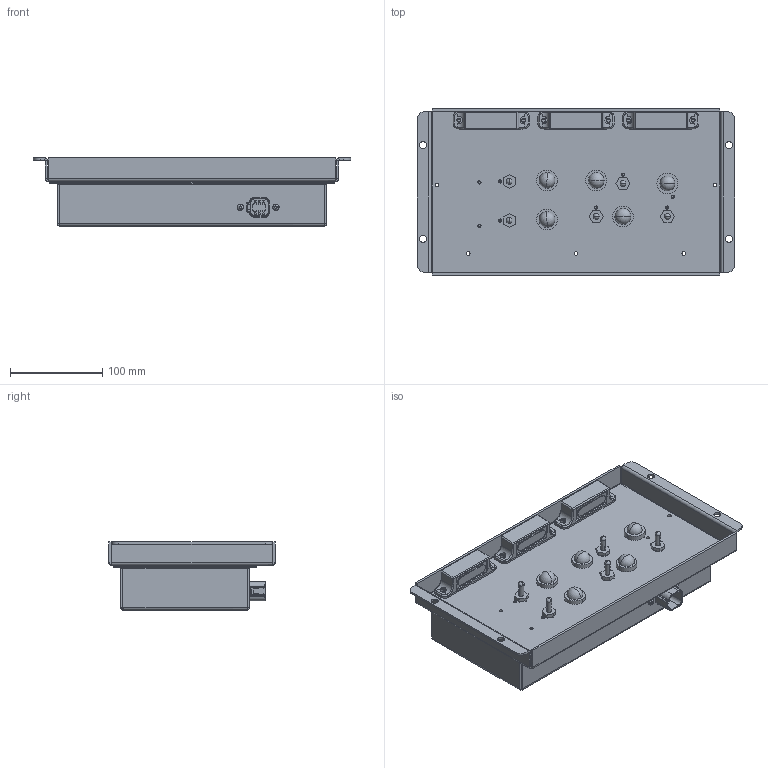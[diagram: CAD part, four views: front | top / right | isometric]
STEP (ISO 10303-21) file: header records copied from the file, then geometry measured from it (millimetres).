
FILE_DESCRIPTION (( 'STEP AP214' ), '1' );
FILE_NAME ('Assem7.STEP', '2019-04-02T17:20:41', ( '' ), ( '' ), 'SwSTEP 2.0', 'SolidWorks 2014', '' );
FILE_SCHEMA (( 'AUTOMOTIVE_DESIGN' ));
Length unit declared in the file: inch
Products named in the file (150): SW3dPS-1289; Alignment Ring; User_Library-RES_3216-1206_1; STEP-WE-PD-7345-Metal-rev1; SW3dPS-0805_SMD_Capacitor_1; Part15^Jack CNTRL BOX LFT (1); Part3^Assem7; Assem7; Part14^Jack CNTRL BOX LFT (1); 96001A264_18-8 SS TORX THREAD-FORMING SCREW FOR PLASTIC (1)_96001A264; solico nut; User_Library-DO-214AA_SMB_1; SW3DPS-SOT-23-DEFAULT; c-dt04-6p-cl09-99-3d; User_Library-Cap12_5x25; ABM7_(20MHZ); Part2^Assem7; SW3dPS-0603_SMD_Capacitor; User_Library-SOIC-8-1; Part15^Hybrid Light; Hybrid Light; Board_Jack_CNTRL_BOX_LFT; Part14^Hybrid Light; User_Library-RES_2013-0805_1; 91831A007_TYPE 18-8 STAINLESS STL NYLON-INSERT LOCKNUT; Part13^Hybrid Light; Potting; 91831A007_TYPE 18-8 STAINLESS STL NYLON-INSERT LOCKNUT_91831A007; Solico 66 Panel light; 93580A225_PEM R  PRESS-IN STUD_93580A225; 93580A225_PEM R  PRESS-IN STUD; 96001A264_18-8 SS TORX THREAD-FORMING SCREW FOR PLASTIC (1); Part15^Assem7; Jack CNTRL BOX LFT (1); TriSar 6-32 mold-in nut; Solico 66 Panel light red; Solico 66 Panel light green; User_Library-0ZCG-0_90mmPTC1812X0_5MM; T7 OTTO Togle Switch; User_Library-RES_1609-0603_1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
Assembly tree (107 placements, depth 3):
  SW3dPS-1289
  Alignment Ring
  User_Library-RES_3216-1206_1
  SW3dPS-0805_SMD_Capacitor_1
  Part15^Jack CNTRL BOX LFT (1)
Bounding box: 343.41 x 179.82 x 73.72 mm (x, y, z)
Volume: 648258.9 mm3; surface area: 526360.6 mm2
Topology: 185 solids, 185 shells, 8852 faces, 22882 edges, 14605 vertices
Faces by surface type: plane 4688, bspline 2091, cylinder 1782, cone 184, torus 87, sphere 20
Entity records: 207121 total; most frequent: CARTESIAN_POINT 65797, ORIENTED_EDGE 21624, DIRECTION 17720, EDGE_CURVE 10812, VERTEX_POINT 6991, VECTOR 6688, LINE 6688, AXIS2_PLACEMENT_3D 5516
